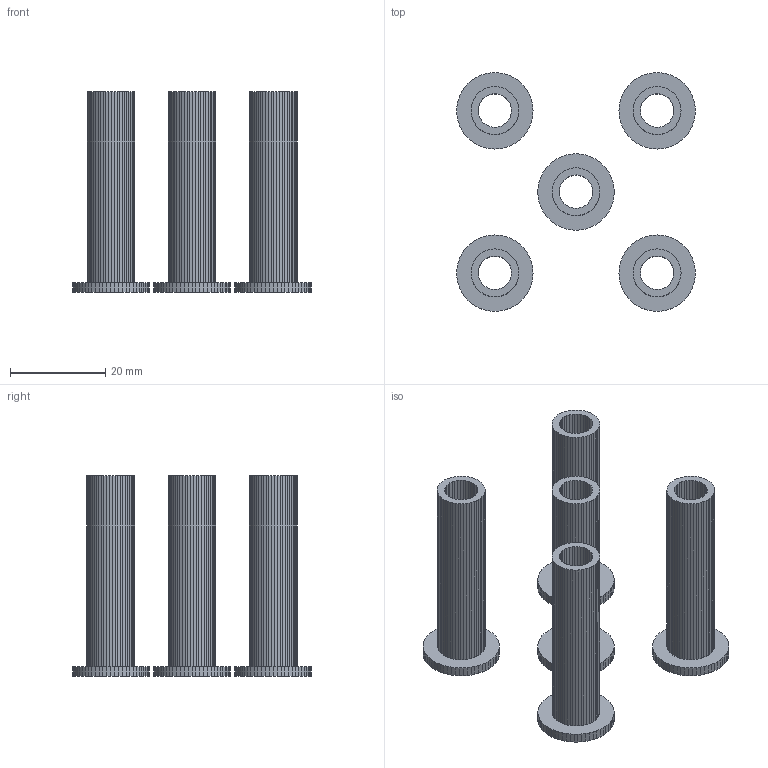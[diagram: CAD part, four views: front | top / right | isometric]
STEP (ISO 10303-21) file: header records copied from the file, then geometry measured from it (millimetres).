
FILE_DESCRIPTION(('Open CASCADE Model'),'2;1');
FILE_NAME('Open CASCADE Shape Model','2026-08-07T13:51:22',('Author'),( 'Open CASCADE'),'Open CASCADE STEP processor 7.9','Open CASCADE 7.9' ,'Unknown');
FILE_SCHEMA(('AUTOMOTIVE_DESIGN { 1 0 10303 214 1 1 1 1 }'));
Products named in the file (1): 導正套筒x5(外購)
Bounding box: 50 x 50 x 42 mm (x, y, z)
Volume: 9635.1 mm3; surface area: 13018.5 mm2
Topology: 5 solids, 5 shells, 765 faces, 2250 edges, 1500 vertices
Faces by surface type: plane 765
Entity records: 54176 total; most frequent: CARTESIAN_POINT 9016, DIRECTION 8282, LINE 6750, VECTOR 6750, ORIENTED_EDGE 4500, PCURVE 4500, DEFINITIONAL_REPRESENTATION 4500, EDGE_CURVE 2250
